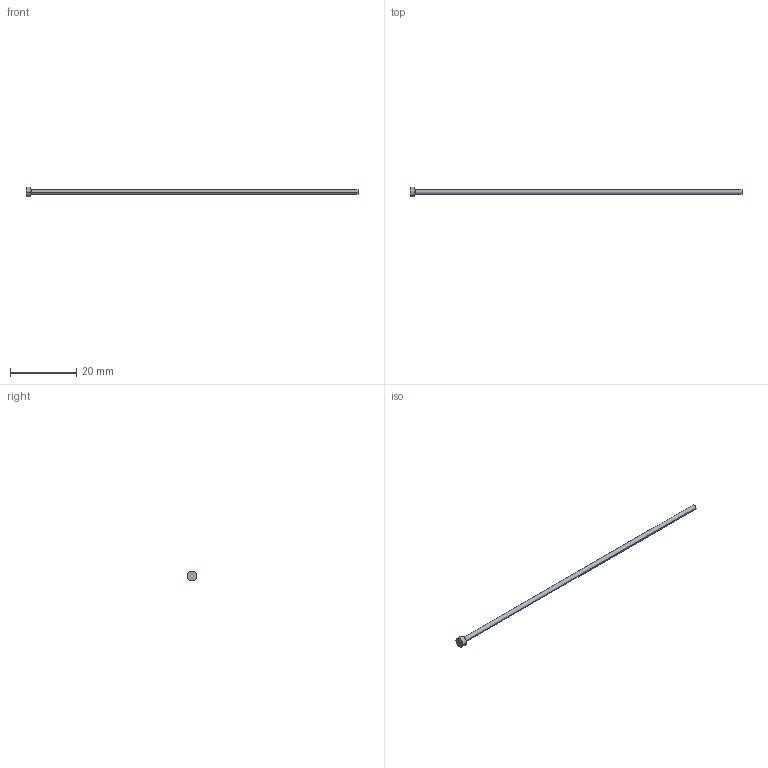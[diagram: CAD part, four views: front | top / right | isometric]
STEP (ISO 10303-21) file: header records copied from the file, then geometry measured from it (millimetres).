
FILE_DESCRIPTION (( 'STEP AP214' ), '1' );
FILE_NAME ('A-1,5x100.STEP', '2020-05-28T16:37:00', ( 'August' ), ( '' ), 'SwSTEP 2.0', 'SolidWorks 2018', '' );
FILE_SCHEMA (( 'AUTOMOTIVE_DESIGN' ));
Length unit declared in the file: millimetre
Products named in the file (1): A-1,5x100
Bounding box: 100 x 3 x 3 mm (x, y, z)
Volume: 184.7 mm3; surface area: 492.1 mm2
Topology: 1 solids, 1 shells, 9 faces, 16 edges, 10 vertices
Faces by surface type: cylinder 4, plane 3, torus 2
Entity records: 260 total; most frequent: DIRECTION 48, CARTESIAN_POINT 36, ORIENTED_EDGE 32, AXIS2_PLACEMENT_3D 22, EDGE_CURVE 16, CIRCLE 12, VERTEX_POINT 10, EDGE_LOOP 10
